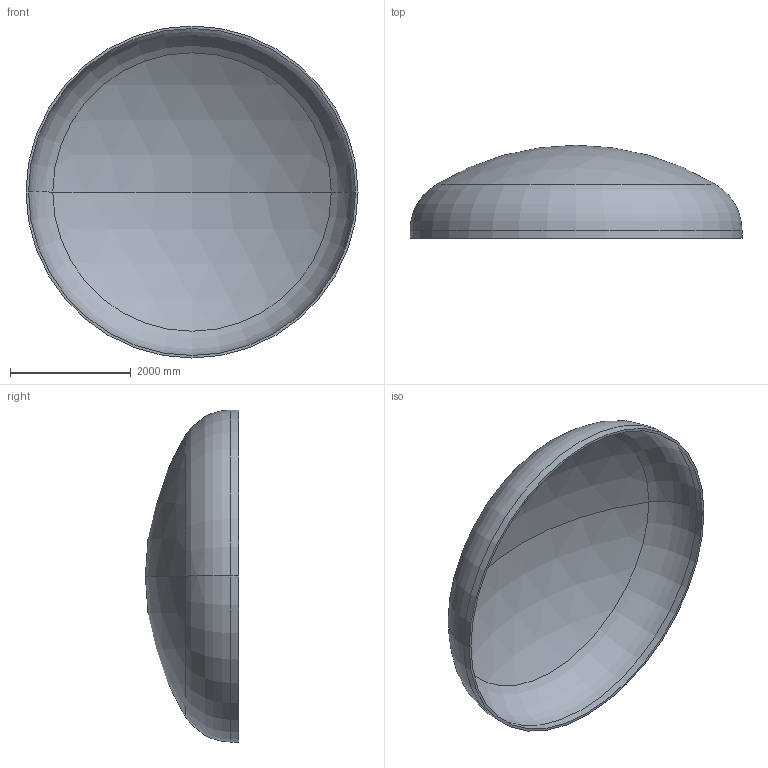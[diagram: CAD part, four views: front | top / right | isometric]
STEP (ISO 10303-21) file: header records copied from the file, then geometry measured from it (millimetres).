
FILE_DESCRIPTION (( 'STEP AP203' ), '1' );
FILE_NAME ('DIN 28013 Korbbogenform_-_Boden DIN 28013 - 5500 x 130 - I - s=41.step', '2016-07-04T10:34:07', ( '' ), ( '' ), 'SwSTEP 2.0', 'SolidWorks 2013', '' );
FILE_SCHEMA (( 'CONFIG_CONTROL_DESIGN' ));
Length unit declared in the file: millimetre
Products named in the file (1): DIN 28013 Korbbogenform_-_Boden DIN 28013 - 5500 x 130 - I - s=41
Bounding box: 5500 x 1543.87 x 5500 mm (x, y, z)
Volume: 1426673348.8 mm3; surface area: 70300464.1 mm2
Topology: 1 solids, 1 shells, 13 faces, 24 edges, 14 vertices
Faces by surface type: torus 4, cylinder 4, sphere 4, plane 1
Entity records: 407 total; most frequent: DIRECTION 72, CARTESIAN_POINT 52, ORIENTED_EDGE 48, AXIS2_PLACEMENT_3D 34, EDGE_CURVE 24, CIRCLE 20, VERTEX_POINT 14, EDGE_LOOP 14
